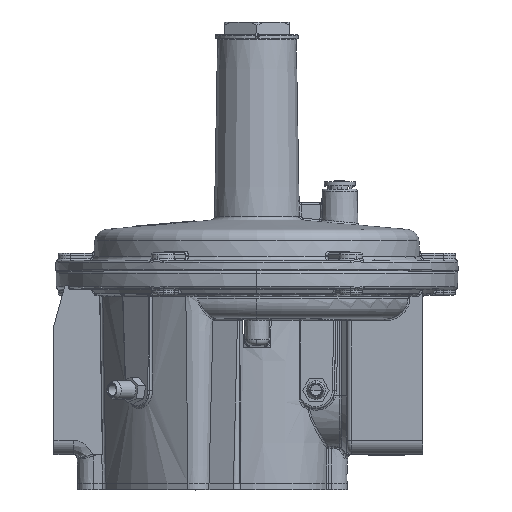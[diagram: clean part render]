
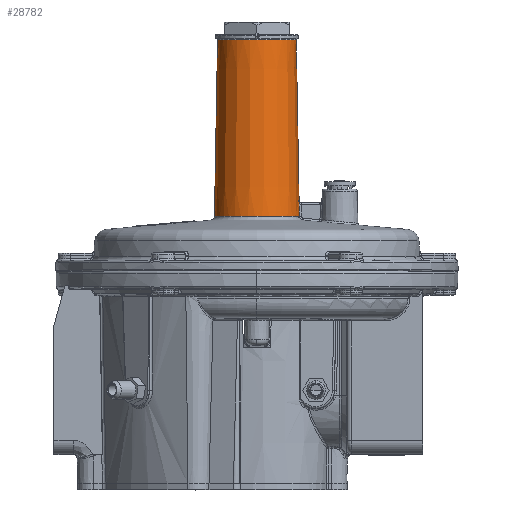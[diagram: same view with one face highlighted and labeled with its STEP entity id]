
A CAD part, top view. The second image highlights one B-rep face of the part: STEP entity #28782.
In plain terms, the highlighted conical face has half-angle 1 degrees and reference radius 19 mm.
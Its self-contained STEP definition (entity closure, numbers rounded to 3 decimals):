
#8699 = CARTESIAN_POINT ( 'NONE',  ( 19.008, 146.855, 0. ) ) ;
#10043 = FACE_OUTER_BOUND ( 'NONE', #33105, .T. ) ;
#10053 = CONICAL_SURFACE ( 'NONE', #17311, 19., 0.017 ) ;
#11473 = CARTESIAN_POINT ( 'NONE',  ( -19.008, 146.855, 0. ) ) ;
#11495 = CARTESIAN_POINT ( 'NONE',  ( 20.406, 61.744, 1.907 ) ) ;
#11503 = CARTESIAN_POINT ( 'NONE',  ( -20.495, 61.744, 0. ) ) ;
#11537 = CARTESIAN_POINT ( 'NONE',  ( 20.273, 69.328, 1.906 ) ) ;
#11544 = CARTESIAN_POINT ( 'NONE',  ( 20.362, 69.328, 0. ) ) ;
#12849 = B_SPLINE_CURVE_WITH_KNOTS ( 'NONE', 3,
 ( #54043, #54051, #54063, #54064, #54065, #54066, #54067 ),
 .UNSPECIFIED., .F., .F.,
 ( 4, 3, 4 ),
 ( 0., 0.002, 0.008 ),
 .UNSPECIFIED. ) ;
#17311 = AXIS2_PLACEMENT_3D ( 'NONE', #20554, #20551, #20550 ) ;
#20550 = DIRECTION ( 'NONE',  ( 1., 0., 0. ) ) ;
#20551 = DIRECTION ( 'NONE',  ( 0., -1., 0. ) ) ;
#20554 = CARTESIAN_POINT ( 'NONE',  ( 0., 147.346, 0. ) ) ;
#28062 = VERTEX_POINT ( 'NONE', #8699 ) ;
#28072 = VERTEX_POINT ( 'NONE', #11473 ) ;
#28094 = VERTEX_POINT ( 'NONE', #11495 ) ;
#28102 = VERTEX_POINT ( 'NONE', #11503 ) ;
#28136 = VERTEX_POINT ( 'NONE', #11537 ) ;
#28143 = VERTEX_POINT ( 'NONE', #11544 ) ;
#28782 = ADVANCED_FACE ( 'NONE', ( #10043 ), #10053, .T. ) ;
#31228 = EDGE_CURVE ( 'NONE', #28062, #28143, #52385, .T. ) ;
#31231 = EDGE_CURVE ( 'NONE', #28136, #28143, #52389, .T. ) ;
#31233 = EDGE_CURVE ( 'NONE', #28094, #28136, #12849, .T. ) ;
#31234 = EDGE_CURVE ( 'NONE', #28094, #28102, #52386, .T. ) ;
#31237 = EDGE_CURVE ( 'NONE', #28072, #28102, #52393, .T. ) ;
#31239 = EDGE_CURVE ( 'NONE', #28062, #28072, #52392, .T. ) ;
#33105 = EDGE_LOOP ( 'NONE', ( #34755, #34756, #34757, #34758, #34759, #34760 ) ) ;
#34755 = ORIENTED_EDGE ( 'NONE', *, *, #31239, .T. ) ;
#34756 = ORIENTED_EDGE ( 'NONE', *, *, #31237, .T. ) ;
#34757 = ORIENTED_EDGE ( 'NONE', *, *, #31234, .F. ) ;
#34758 = ORIENTED_EDGE ( 'NONE', *, *, #31233, .T. ) ;
#34759 = ORIENTED_EDGE ( 'NONE', *, *, #31231, .T. ) ;
#34760 = ORIENTED_EDGE ( 'NONE', *, *, #31228, .F. ) ;
#52385 = LINE ( 'NONE', #54025, #52387 ) ;
#52386 = CIRCLE ( 'NONE', #54469, 20.495 ) ;
#52387 = VECTOR ( 'NONE', #54032, 1000. ) ;
#52389 = CIRCLE ( 'NONE', #54468, 20.362 ) ;
#52392 = CIRCLE ( 'NONE', #54473, 19.008 ) ;
#52393 = LINE ( 'NONE', #54062, #52395 ) ;
#52395 = VECTOR ( 'NONE', #54071, 1000. ) ;
#54025 = CARTESIAN_POINT ( 'NONE',  ( 19., 147.346, 0. ) ) ;
#54032 = DIRECTION ( 'NONE',  ( 0.017, -1., 0. ) ) ;
#54043 = CARTESIAN_POINT ( 'NONE',  ( 20.406, 61.744, 1.907 ) ) ;
#54048 = CARTESIAN_POINT ( 'NONE',  ( 0., 69.328, 0. ) ) ;
#54049 = DIRECTION ( 'NONE',  ( 0., 1., 0. ) ) ;
#54050 = DIRECTION ( 'NONE',  ( -1., 0., 0. ) ) ;
#54051 = CARTESIAN_POINT ( 'NONE',  ( 20.394, 62.41, 1.907 ) ) ;
#54062 = CARTESIAN_POINT ( 'NONE',  ( -19., 147.346, 0. ) ) ;
#54063 = CARTESIAN_POINT ( 'NONE',  ( 20.382, 63.077, 1.907 ) ) ;
#54064 = CARTESIAN_POINT ( 'NONE',  ( 20.371, 63.743, 1.907 ) ) ;
#54065 = CARTESIAN_POINT ( 'NONE',  ( 20.338, 65.605, 1.907 ) ) ;
#54066 = CARTESIAN_POINT ( 'NONE',  ( 20.305, 67.467, 1.907 ) ) ;
#54067 = CARTESIAN_POINT ( 'NONE',  ( 20.273, 69.328, 1.906 ) ) ;
#54068 = CARTESIAN_POINT ( 'NONE',  ( 0., 61.744, 0. ) ) ;
#54069 = DIRECTION ( 'NONE',  ( 0., -1., 0. ) ) ;
#54070 = DIRECTION ( 'NONE',  ( 1., 0., 0. ) ) ;
#54071 = DIRECTION ( 'NONE',  ( -0.017, -1., 0. ) ) ;
#54083 = CARTESIAN_POINT ( 'NONE',  ( 0., 146.855, 0. ) ) ;
#54084 = DIRECTION ( 'NONE',  ( 0., -1., 0. ) ) ;
#54085 = DIRECTION ( 'NONE',  ( -1., 0., 0. ) ) ;
#54468 = AXIS2_PLACEMENT_3D ( 'NONE', #54048, #54049, #54050 ) ;
#54469 = AXIS2_PLACEMENT_3D ( 'NONE', #54068, #54069, #54070 ) ;
#54473 = AXIS2_PLACEMENT_3D ( 'NONE', #54083, #54084, #54085 ) ;
